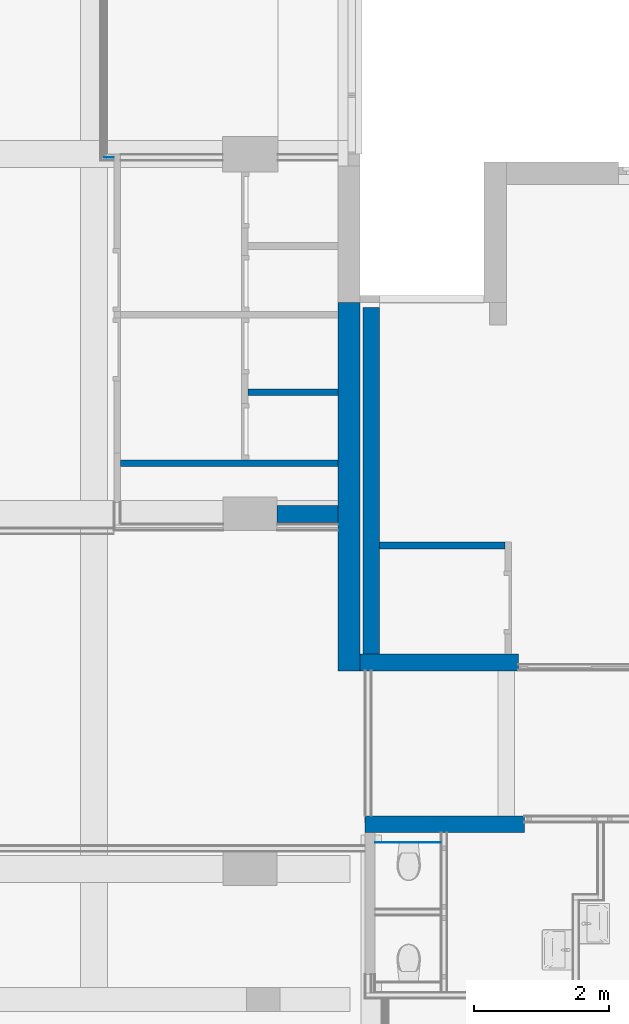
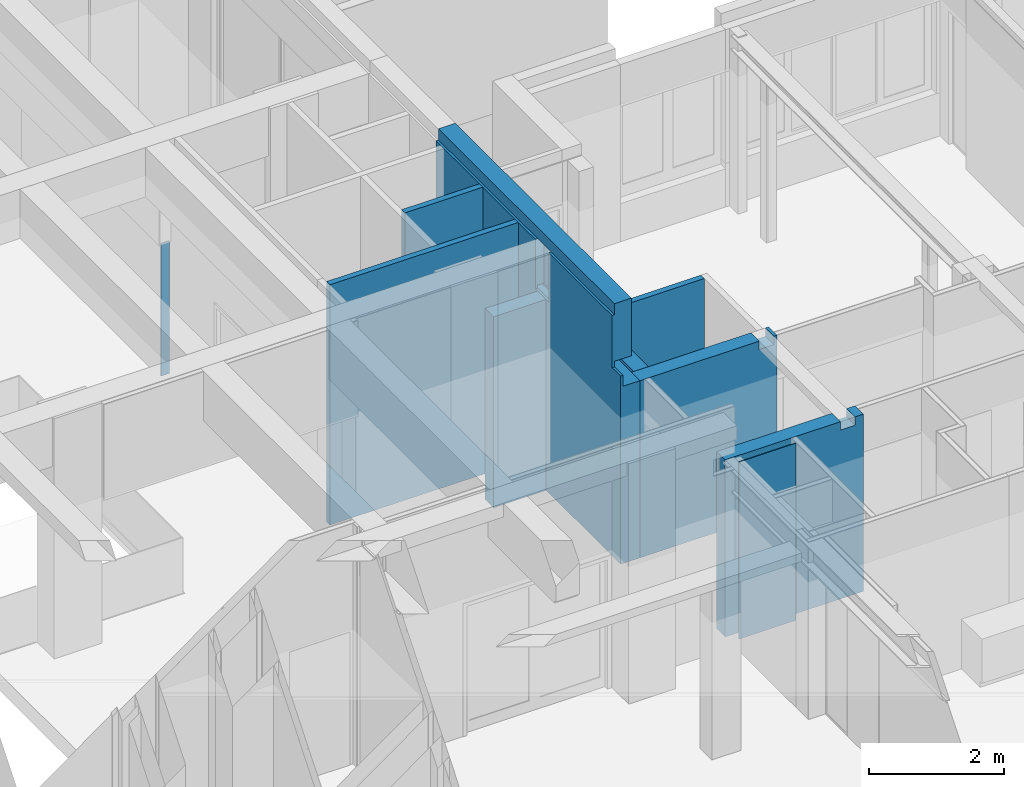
# One storey, part 59 of 117: 10 walls.
"""IFC2X3 building model written with IfcOpenShell, lengths in millimetres."""

from ifc_helpers import new_model, entity, si_unit, converted_unit, derived_unit, money_unit, direction, frame, origin_with_axes, place, context, subcontext, project, spatial, faceted_brep, material, type_object, element, save


model = new_model("IFC2X3")

# Units and contexts
model_context = context("Model", 3, precision=0.01, world=origin_with_axes(), true_north=direction((0.0, 1.0)))
body_context = subcontext(model_context, "Body", "Model", "MODEL_VIEW")
ifc_project = project(units=[si_unit("LENGTHUNIT", "METRE", prefix="MILLI"), si_unit("AREAUNIT", "SQUARE_METRE"), si_unit("VOLUMEUNIT", "CUBIC_METRE"), converted_unit("PLANEANGLEUNIT", "DEGREE", entity("IfcPlaneAngleMeasure", 0.0174532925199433), si_unit("PLANEANGLEUNIT", "RADIAN"), dimensions=[0, 0, 0, 0, 0, 0, 0]), money_unit("EUR"), converted_unit("TIMEUNIT", "Year", entity("IfcTimeMeasure", 31557600.0), si_unit("TIMEUNIT", "SECOND"), dimensions=[0, 0, 1, 0, 0, 0, 0]), si_unit("MASSUNIT", "GRAM", prefix="KILO"), si_unit("THERMODYNAMICTEMPERATUREUNIT", "DEGREE_CELSIUS"), si_unit("LUMINOUSINTENSITYUNIT", "LUMEN"), si_unit("ENERGYUNIT", "JOULE", prefix="MEGA"), derived_unit("THERMALCONDUCTANCEUNIT", [(si_unit("POWERUNIT", "WATT"), 1), (si_unit("LENGTHUNIT", "METRE"), -1), (si_unit("THERMODYNAMICTEMPERATUREUNIT", "KELVIN"), -1)]), derived_unit("SPECIFICHEATCAPACITYUNIT", [(si_unit("ENERGYUNIT", "JOULE"), 1), (si_unit("MASSUNIT", "GRAM", prefix="KILO"), -1), (si_unit("THERMODYNAMICTEMPERATUREUNIT", "KELVIN"), -1)]), derived_unit("MASSDENSITYUNIT", [(si_unit("MASSUNIT", "GRAM", prefix="KILO"), 1), (si_unit("VOLUMEUNIT", "CUBIC_METRE"), -1)])], contexts=[model_context])

# Site, building, storey
site_placement = place(None, origin_with_axes())
site = spatial("IfcSite", under=ifc_project, at=site_placement, Name="Site", CompositionType="ELEMENT")
building_placement = place(site_placement, origin_with_axes())
building = spatial("IfcBuilding", under=site, at=building_placement, Name="Naam gebouw", CompositionType="ELEMENT")
storey_placement = place(building_placement, frame((0.0, 0.0, 4150.0), z_axis=(0.0, 0.0, 1.0), x_axis=(1.0, 0.0, 0.0)))
storey = spatial("IfcBuildingStorey", under=building, at=storey_placement, Name="1e verdieping N", CompositionType="ELEMENT", Elevation=4150.0)

# Walls
ifc_material_1 = material(Name="ALG - CONSTRUCTIEF")
wall_type_1 = type_object("IfcWallType", Name="ALG - CONSTRUCTIEF 100", PredefinedType="NOTDEFINED")
wall_1_placement = place(storey_placement, frame((29945.0, 24375.76583405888, -99.99999999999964), z_axis=(0.0, 0.0, 1.0), x_axis=(-1.0, 0.0, 0.0)))
element("IfcWall", 1, at=wall_1_placement, inside=storey, type_object=wall_type_1, material=ifc_material_1, Name="_Wand-x", context=body_context, shape_type="Brep", body=[
    faceted_brep([(39.00000000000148, 0.0, 4439.999999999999), (39.00000000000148, 0.0, 99.99999999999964), (39.00000000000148, -100.0000000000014, 99.99999999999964), (39.00000000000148, -100.0000000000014, 4439.999999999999), (1369.0, 0.0, 4439.999999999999), (1369.0, 0.0, 99.99999999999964), (1369.0, -100.0000000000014, 99.99999999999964), (1369.0, -100.0000000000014, 4439.999999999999)], [[[0, 1, 2, 3]], [[4, 5, 1, 0]], [[5, 6, 2, 1]], [[3, 2, 6, 7]], [[3, 7, 4, 0]], [[7, 6, 5, 4]]]),
])
wall_2_placement = place(storey_placement, frame((32481.11706441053, 22106.91242510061, -99.99999999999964), z_axis=(0.0, 0.0, 1.0), x_axis=(-1.0, 0.0, 0.0)))
element("IfcWall", 2, at=wall_2_placement, inside=storey, type_object=wall_type_1, material=ifc_material_1, Name="_Wand-x", context=body_context, shape_type="Brep", body=[
    faceted_brep([(100.0000000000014, 0.0, 3300.0), (100.0000000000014, 0.0, 99.99999999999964), (100.0000000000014, -100.0000000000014, 99.99999999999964), (100.0000000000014, -100.0000000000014, 3300.0), (1956.117064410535, 0.0, 3300.0), (1956.117064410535, 0.0, 99.99999999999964), (1956.117064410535, -100.0000000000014, 99.99999999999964), (1956.117064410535, -100.0000000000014, 3300.0)], [[[0, 1, 2, 3]], [[4, 5, 1, 0]], [[5, 6, 2, 1]], [[3, 2, 6, 7]], [[4, 0, 3, 7]], [[7, 6, 5, 4]]]),
])
wall_3_placement = place(storey_placement, frame((29945.0, 23325.91242510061, -99.99999999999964), z_axis=(0.0, 0.0, 1.0), x_axis=(-1.0, 0.0, 0.0)))
element("IfcWall", 3, at=wall_3_placement, inside=storey, type_object=wall_type_1, material=ifc_material_1, Name="_Wand-x", context=body_context, shape_type="Brep", body=[
    faceted_brep([(39.00000000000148, 0.0, 4439.999999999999), (39.00000000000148, 0.0, 99.99999999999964), (39.00000000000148, -100.0000000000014, 99.99999999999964), (39.00000000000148, -100.0000000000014, 4439.999999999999), (3259.0, 0.0, 4439.999999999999), (3259.0, 0.0, 99.99999999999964), (3259.0, -100.0000000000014, 99.99999999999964), (3259.0, -100.0000000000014, 4439.999999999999)], [[[0, 1, 2, 3]], [[4, 5, 1, 0]], [[5, 6, 2, 1]], [[3, 2, 6, 7]], [[0, 3, 7, 4]], [[7, 6, 5, 4]]]),
])
wall_type_2 = type_object("IfcWallType", Name="ALG - CONSTRUCTIEF 330", PredefinedType="NOTDEFINED")
wall_4_placement = place(storey_placement, frame((29906.0, 25760.89702607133, -99.99999999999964), z_axis=(0.0, 0.0, 1.0), x_axis=(0.0, -1.0, 0.0)))
element("IfcWall", 4, at=wall_4_placement, inside=storey, type_object=wall_type_2, material=ifc_material_1, Name="_Wand-x", context=body_context, shape_type="Brep", body=[
    faceted_brep([(0.0, 0.0, 4439.999999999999), (2940.799217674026, 0.0, 4439.999999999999), (2940.799217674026, 39.00000000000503, 4439.999999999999), (0.0, 39.00000000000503, 4439.999999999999), (3340.799217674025, 0.0, 3549.999999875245), (2940.799217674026, 0.0, 3549.999999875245), (0.0, 0.0, 99.99999999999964), (5459.984600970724, 0.0, 99.99999999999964), (5459.984600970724, 0.0, 3500.0), (5209.984600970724, 0.0, 3500.0), (5209.984600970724, 0.0, 4439.999999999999), (3340.799217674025, 0.0, 4439.999999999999), (2940.799217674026, 39.00000000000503, 3549.999999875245), (2940.799217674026, 39.00000000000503, 3600.0), (2940.799217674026, 149.999999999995, 3600.0), (2940.799217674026, 149.999999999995, 4439.999999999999), (3340.799217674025, 39.00000000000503, 4439.999999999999), (5209.984600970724, 39.00000000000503, 4439.999999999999), (5209.984600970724, 39.00000000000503, 4639.999999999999), (0.0, 39.00000000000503, 4639.999999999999), (0.0, 330.0000000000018, 3300.0), (0.0, 329.9999999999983, 99.99999999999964), (0.0, 10.53216587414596, 99.99999999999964), (0.0, 330.0000000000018, 4639.999999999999), (0.0, 330.0000000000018, 3600.0), (0.0, 39.00000000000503, 3600.0), (0.0, 39.00000000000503, 3300.0), (3340.799217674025, 39.00000000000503, 3549.999999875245), (5459.984600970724, 329.9999999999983, 99.99999999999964), (5459.984600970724, 39.00000000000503, 3500.0), (5459.984600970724, 329.9999999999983, 3300.0), (5459.984600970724, 39.00000000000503, 3300.0), (5209.984600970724, 39.00000000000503, 3500.0), (5209.984600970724, 39.00000000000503, 3600.0), (5209.984600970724, 329.9999999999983, 3600.0), (5209.984600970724, 329.9999999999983, 4639.999999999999), (3340.799217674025, 149.999999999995, 4439.999999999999), (3340.799217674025, 149.999999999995, 3600.0), (3340.799217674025, 39.00000000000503, 3600.0)], [[[0, 1, 2, 3]], [[4, 5, 1, 0, 6, 7, 8, 9, 10, 11]], [[12, 13, 14, 15, 2, 1, 5]], [[3, 2, 16, 17, 18, 19]], [[20, 21, 22, 6, 0, 3, 19, 23, 24, 25, 26]], [[4, 27, 12, 5]], [[7, 6, 22, 21, 28]], [[29, 8, 7, 28, 30, 31]], [[9, 8, 29, 32]], [[9, 32, 33, 34, 35, 18, 17, 10]], [[17, 16, 11, 10]], [[36, 37, 38, 27, 4, 11, 16]], [[12, 27, 38, 33, 32, 29, 31, 26, 25, 13]], [[33, 38, 37, 14, 13, 25, 24, 34]], [[15, 14, 37, 36]], [[36, 16, 2, 15]], [[35, 23, 19, 18]], [[20, 30, 28, 21]], [[23, 35, 34, 24]], [[26, 31, 30, 20]]]),
])
wall_type_3 = type_object("IfcWallType", Name="ALG - CONSTRUCTIEF 250", PredefinedType="NOTDEFINED")
wall_5_placement = place(storey_placement, frame((30456.99999999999, 18150.91242510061, 0.0), z_axis=(0.0, 0.0, 1.0), x_axis=(1.0, 0.0, 0.0)))
element("IfcWall", 5, at=wall_5_placement, inside=storey, type_object=wall_type_3, material=ifc_material_1, Name="_Wand-x", context=body_context, shape_type="Brep", body=[
    faceted_brep([(1818.000000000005, 0.0, 3199.999999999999), (1818.000000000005, 0.0, 3049.999999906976), (2068.000000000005, 0.0, 3049.999999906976), (2068.000000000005, 0.0, 3199.999999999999), (2212.187099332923, 0.0, 3199.999999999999), (2212.187099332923, 0.0, 0.0), (-149.9999999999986, 0.0, 0.0), (-149.9999999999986, 0.0, 3199.999999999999), (1818.000000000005, -250.0, 3049.999999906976), (1818.000000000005, -250.0, 3199.999999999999), (2068.000000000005, -250.0, 3049.999999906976), (2068.000000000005, -250.0, 3199.999999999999), (2212.187099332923, -250.0, 3199.999999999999), (2212.187099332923, -250.0, 0.0), (-149.9999999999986, -250.0, 0.0), (-149.9999999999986, -250.0, 3199.999999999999)], [[[0, 1, 2, 3, 4, 5, 6, 7]], [[8, 1, 0, 9]], [[10, 2, 1, 8]], [[10, 11, 3, 2]], [[4, 3, 11, 12]], [[13, 5, 4, 12]], [[13, 14, 6, 5]], [[7, 6, 14, 15]], [[15, 9, 0, 7]], [[10, 8, 9, 15, 14, 13, 12, 11]]]),
])
wall_6_placement = place(storey_placement, frame((29906.0, 20550.91242510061, -99.99999999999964), z_axis=(0.0, 0.0, 1.0), x_axis=(1.0, 0.0, 0.0)))
element("IfcWall", 6, at=wall_6_placement, inside=storey, type_object=wall_type_3, material=ifc_material_1, Name="_Wand-x", context=body_context, shape_type="Brep", body=[
    faceted_brep([(2368.999999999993, 0.0, 3300.0), (2368.999999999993, 0.0, 3149.999999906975), (2618.999999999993, 0.0, 3149.999999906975), (2618.999999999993, 0.0, 3300.0), (2675.117064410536, 0.0, 3300.0), (2675.117064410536, 0.0, 99.99999999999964), (329.9999999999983, 0.0, 99.99999999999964), (329.9999999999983, 0.0, 3300.0), (2368.999999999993, -250.0, 3149.999999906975), (2368.999999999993, -250.0, 3300.0), (2618.999999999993, -250.0, 3149.999999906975), (2618.999999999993, -250.0, 3300.0), (2675.117064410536, -250.0, 3300.0), (2675.117064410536, -250.0, 99.99999999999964), (329.9999999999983, -250.0, 99.99999999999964), (329.9999999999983, -250.0, 3300.0)], [[[0, 1, 2, 3, 4, 5, 6, 7]], [[8, 1, 0, 9]], [[10, 2, 1, 8]], [[10, 11, 3, 2]], [[4, 3, 11, 12]], [[4, 12, 13, 5]], [[13, 14, 6, 5]], [[15, 7, 6, 14]], [[15, 9, 0, 7]], [[10, 8, 9, 15, 14, 13, 12, 11]]]),
])
wall_7_placement = place(storey_placement, frame((30525.0, 25684.45192419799, -99.99999999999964), z_axis=(0.0, 0.0, 1.0), x_axis=(0.0, -1.0, 0.0)))
element("IfcWall", 7, at=wall_7_placement, inside=storey, type_object=wall_type_3, material=ifc_material_1, Name="_Wand-x", context=body_context, shape_type="Brep", body=[
    faceted_brep([(5133.539499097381, 0.0, 3300.0), (5133.539499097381, 0.0, 99.99999999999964), (0.0, 0.0, 99.99999999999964), (0.0, 0.0, 3300.0), (5133.539499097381, -250.0, 3300.0), (5133.539499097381, -250.0, 99.99999999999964), (0.0, -250.0, 99.99999999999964), (0.0, -250.0, 3300.0)], [[[0, 1, 2, 3]], [[4, 5, 1, 0]], [[5, 6, 2, 1]], [[3, 2, 6, 7]], [[4, 0, 3, 7]], [[7, 6, 5, 4]]]),
])
wall_8_placement = place(storey_placement, frame((28960.0, 22625.91242510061, -99.99999999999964), z_axis=(0.0, 0.0, 1.0), x_axis=(1.0, 0.0, 0.0)))
element("IfcWall", 8, at=wall_8_placement, inside=storey, type_object=wall_type_3, material=ifc_material_1, Name="_Wand-x", context=body_context, shape_type="Brep", body=[
    faceted_brep([(946.0000000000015, 125.0, 99.99999999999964), (45.99999999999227, 125.0, 99.99999999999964), (45.99999999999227, 125.0, 3549.999999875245), (946.0000000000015, 125.0, 3549.999999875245), (946.0000000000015, -125.0, 99.99999999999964), (45.99999999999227, -125.0, 99.99999999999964), (45.99999999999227, -125.0, 3549.999999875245), (946.0000000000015, -125.0, 3549.999999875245)], [[[0, 1, 2, 3]], [[4, 5, 1, 0]], [[5, 6, 2, 1]], [[3, 2, 6, 7]], [[4, 0, 3, 7]], [[7, 6, 5, 4]]]),
])
ifc_material_2 = material(Name="Gipsplaat")
wall_type_4 = type_object("IfcWallType", Name="Metalstud 150 enkel 150", PredefinedType="NOTDEFINED")
wall_9_placement = place(storey_placement, frame((30456.99999999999, 17750.91242510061, 0.0), z_axis=(0.0, 0.0, 1.0), x_axis=(1.0, 0.0, 0.0)))
element("IfcWall", 9, at=wall_9_placement, inside=storey, type_object=wall_type_4, material=ifc_material_2, Name="_Wand-x", context=body_context, shape_type="Brep", body=[
    faceted_brep([(0.0, 12.49999999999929, 0.0), (0.0, 12.49999999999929, 3200.0), (972.1870993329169, 12.49999999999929, 3200.0), (972.1870993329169, 12.49999999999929, 0.0), (0.0, 0.0, 0.0), (0.0, 0.0, 3200.0), (972.1870993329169, 0.0, 3200.0), (972.1870993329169, 0.0, 0.0)], [[[0, 1, 2, 3]], [[4, 5, 1, 0]], [[5, 6, 2, 1]], [[3, 2, 6, 7]], [[3, 7, 4, 0]], [[7, 6, 5, 4]]]),
])
ifc_material_3 = material(Name="Glas")
wall_type_5 = type_object("IfcWallType", Name="Glas 10", PredefinedType="NOTDEFINED")
wall_10_placement = place(storey_placement, frame((26436.0, 27905.9134721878, 0.0), z_axis=(0.0, 0.0, 1.0), x_axis=(0.9999994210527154, -0.001076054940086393, 0.0)))
element("IfcWall", 10, at=wall_10_placement, inside=storey, type_object=wall_type_5, material=ifc_material_3, Name="_Wand-x", context=body_context, shape_type="Brep", body=[
    faceted_brep([(150.0000868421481, 4.999999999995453, 0.0), (150.0000868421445, -5.000000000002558, 0.0), (5.005383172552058, -4.999999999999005, 0.0), (4.994622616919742, 4.999999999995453, 0.0), (150.0000868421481, 4.999999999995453, 2400.0), (150.0000868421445, -5.000000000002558, 2400.0), (5.005383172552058, -4.999999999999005, 2400.0), (4.994622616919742, 4.999999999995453, 2400.0)], [[[0, 1, 2, 3]], [[0, 4, 5, 1]], [[1, 5, 6, 2]], [[3, 2, 6, 7]], [[4, 0, 3, 7]], [[5, 4, 7, 6]]]),
])

save(model, "model.ifc")
